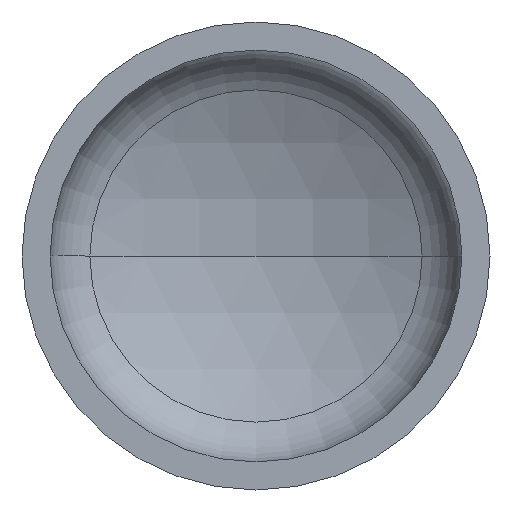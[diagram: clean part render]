
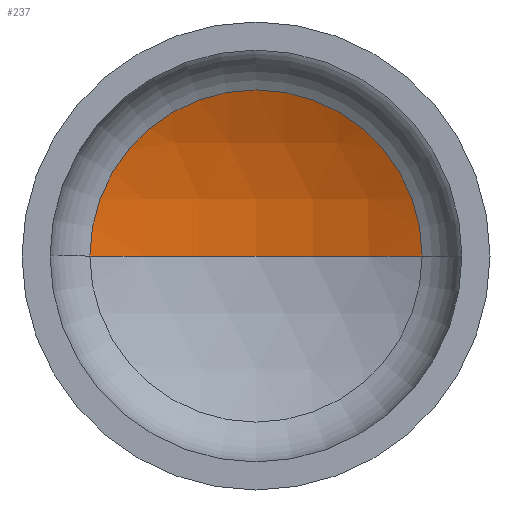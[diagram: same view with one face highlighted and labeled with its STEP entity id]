
A CAD part, front view. The second image highlights one B-rep face of the part: STEP entity #237.
In plain terms, the highlighted spherical face has radius 1360 mm.
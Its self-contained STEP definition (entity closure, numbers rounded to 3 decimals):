
#7 = EDGE_LOOP ( 'NONE', ( #114, #105, #64 ) ) ;
#36 = AXIS2_PLACEMENT_3D ( 'NONE', #226, #170, #51 ) ;
#51 = DIRECTION ( 'NONE',  ( -1., 0., 0. ) ) ;
#53 = VERTEX_POINT ( 'NONE', #253 ) ;
#60 = AXIS2_PLACEMENT_3D ( 'NONE', #249, #248, #247 ) ;
#63 = AXIS2_PLACEMENT_3D ( 'NONE', #199, #201, #212 ) ;
#64 = ORIENTED_EDGE ( 'NONE', *, *, #165, .T. ) ;
#71 = AXIS2_PLACEMENT_3D ( 'NONE', #411, #258, #279 ) ;
#84 = VERTEX_POINT ( 'NONE', #221 ) ;
#105 = ORIENTED_EDGE ( 'NONE', *, *, #167, .T. ) ;
#108 = VERTEX_POINT ( 'NONE', #328 ) ;
#114 = ORIENTED_EDGE ( 'NONE', *, *, #169, .F. ) ;
#142 = SPHERICAL_SURFACE ( 'NONE', #36, 1360. ) ;
#159 = CIRCLE ( 'NONE', #60, 1360. ) ;
#165 = EDGE_CURVE ( 'NONE', #53, #84, #365, .T. ) ;
#167 = EDGE_CURVE ( 'NONE', #108, #53, #231, .T. ) ;
#169 = EDGE_CURVE ( 'NONE', #108, #84, #159, .T. ) ;
#170 = DIRECTION ( 'NONE',  ( 0., 0., -1. ) ) ;
#199 = CARTESIAN_POINT ( 'NONE',  ( 0., -910.828, 0. ) ) ;
#201 = DIRECTION ( 'NONE',  ( 0., 0., -1. ) ) ;
#212 = DIRECTION ( 'NONE',  ( -1., 0., 0. ) ) ;
#221 = CARTESIAN_POINT ( 'NONE',  ( -603.345, 308.014, 0. ) ) ;
#226 = CARTESIAN_POINT ( 'NONE',  ( 0., -910.828, 0. ) ) ;
#231 = CIRCLE ( 'NONE', #63, 1360. ) ;
#237 = ADVANCED_FACE ( 'NONE', ( #280 ), #142, .F. ) ;
#247 = DIRECTION ( 'NONE',  ( 1., 0., 0. ) ) ;
#248 = DIRECTION ( 'NONE',  ( 0., 0., 1. ) ) ;
#249 = CARTESIAN_POINT ( 'NONE',  ( 0., -910.828, 0. ) ) ;
#253 = CARTESIAN_POINT ( 'NONE',  ( 603.345, 308.014, 0. ) ) ;
#258 = DIRECTION ( 'NONE',  ( 0., -1., 0. ) ) ;
#279 = DIRECTION ( 'NONE',  ( 1., 0., 0. ) ) ;
#280 = FACE_OUTER_BOUND ( 'NONE', #7, .T. ) ;
#328 = CARTESIAN_POINT ( 'NONE',  ( 0., 449.172, 0. ) ) ;
#365 = CIRCLE ( 'NONE', #71, 603.345 ) ;
#411 = CARTESIAN_POINT ( 'NONE',  ( 0., 308.014, 0. ) ) ;
